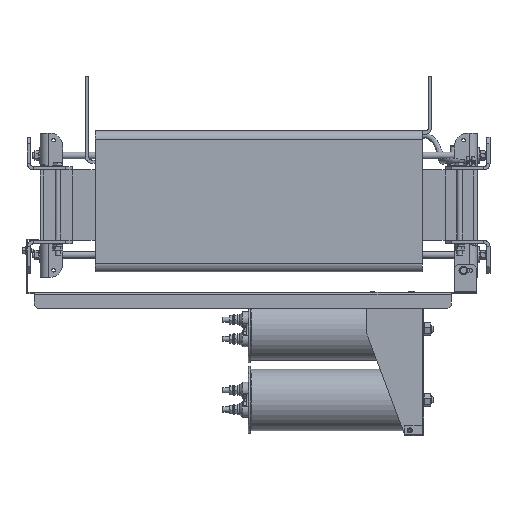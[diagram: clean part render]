
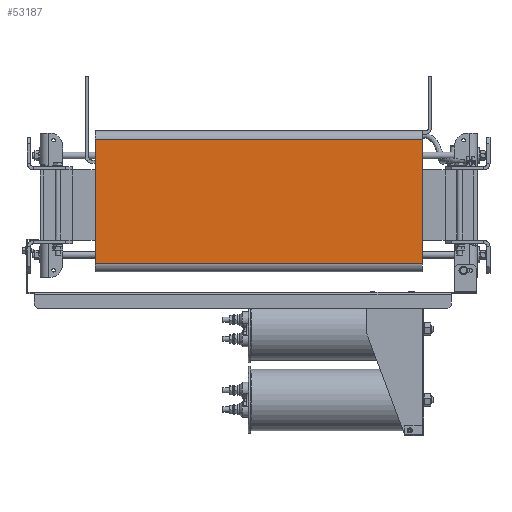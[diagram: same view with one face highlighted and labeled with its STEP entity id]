
A CAD part, left-side view. The second image highlights one B-rep face of the part: STEP entity #53187.
In plain terms, the highlighted planar face has unit normal (-1, 0, 0).
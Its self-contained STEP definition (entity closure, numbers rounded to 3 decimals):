
#2584=PLANE('',#57400);
#4977=FACE_OUTER_BOUND('',#8010,.T.);
#8010=EDGE_LOOP('',(#41259,#41260,#41261,#41262));
#12209=LINE('',#86179,#16646);
#12210=LINE('',#86185,#16647);
#12211=LINE('',#86186,#16648);
#12212=LINE('',#86187,#16649);
#16646=VECTOR('',#67935,10.);
#16647=VECTOR('',#67942,10.);
#16648=VECTOR('',#67943,10.);
#16649=VECTOR('',#67944,10.);
#23670=VERTEX_POINT('',#86177);
#23671=VERTEX_POINT('',#86178);
#23672=VERTEX_POINT('',#86183);
#23673=VERTEX_POINT('',#86184);
#30076=EDGE_CURVE('',#23670,#23671,#12209,.T.);
#30079=EDGE_CURVE('',#23672,#23673,#12210,.T.);
#30080=EDGE_CURVE('',#23670,#23672,#12211,.T.);
#30081=EDGE_CURVE('',#23673,#23671,#12212,.T.);
#41259=ORIENTED_EDGE('',*,*,#30079,.F.);
#41260=ORIENTED_EDGE('',*,*,#30080,.F.);
#41261=ORIENTED_EDGE('',*,*,#30076,.T.);
#41262=ORIENTED_EDGE('',*,*,#30081,.F.);
#53187=ADVANCED_FACE('',(#4977),#2584,.T.);
#57400=AXIS2_PLACEMENT_3D('',#86182,#67940,#67941);
#67935=DIRECTION('',(0.,-1.,0.));
#67940=DIRECTION('center_axis',(-1.,0.,0.));
#67941=DIRECTION('ref_axis',(0.,0.,1.));
#67942=DIRECTION('',(0.,-1.,0.));
#67943=DIRECTION('',(0.,0.,1.));
#67944=DIRECTION('',(0.,0.,-1.));
#86177=CARTESIAN_POINT('',(-206.372,255.,-90.598));
#86178=CARTESIAN_POINT('',(-206.372,-255.,-90.598));
#86179=CARTESIAN_POINT('',(-206.372,0.,-90.598));
#86182=CARTESIAN_POINT('Origin',(-206.372,0.,-90.598));
#86183=CARTESIAN_POINT('',(-206.372,255.,103.098));
#86184=CARTESIAN_POINT('',(-206.372,-255.,103.098));
#86185=CARTESIAN_POINT('',(-206.372,0.,103.098));
#86186=CARTESIAN_POINT('',(-206.372,255.,103.098));
#86187=CARTESIAN_POINT('',(-206.372,-255.,103.098));
